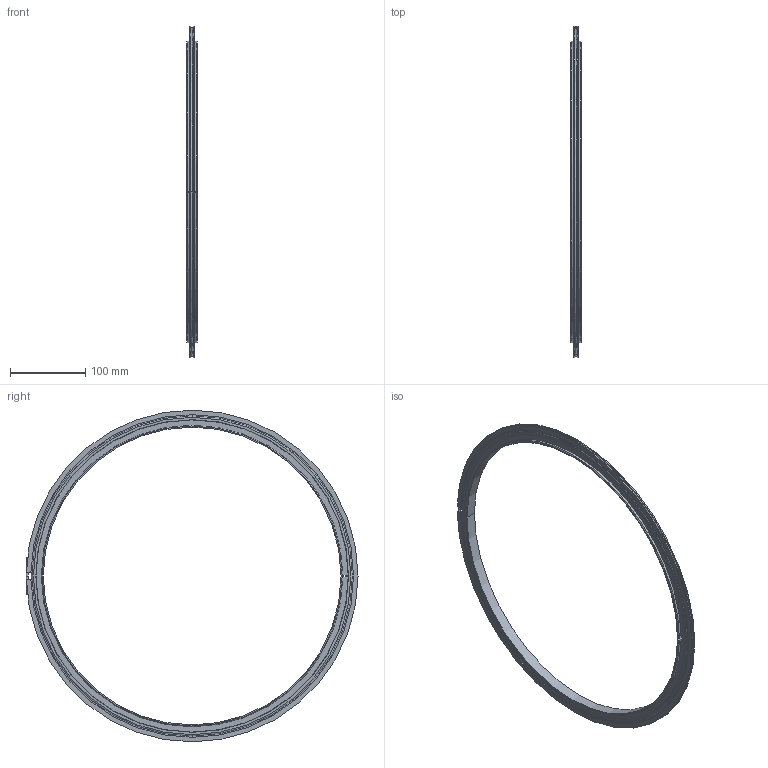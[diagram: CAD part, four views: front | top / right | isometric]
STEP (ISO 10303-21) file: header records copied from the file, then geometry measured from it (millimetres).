
FILE_DESCRIPTION((''),'2;1');
FILE_NAME('N:\Transfer\Berger Martin\Leybold\C13\26814.stp','2005-02-08T10:21:23',('PESO'),(''),'Autodesk Inventor 9','Autodesk Inventor 9','');
FILE_SCHEMA(('AUTOMOTIVE_DESIGN { 1 0 10303 214 1 1 1 1 }'));
Length unit declared in the file: millimetre
Products named in the file (1): 26814
Bounding box: 14 x 440.4 x 440 mm (x, y, z)
Volume: 178273.4 mm3; surface area: 101446.6 mm2
Topology: 2 solids, 2 shells, 66 faces, 189 edges, 127 vertices
Faces by surface type: cylinder 28, plane 18, torus 12, bspline 4, cone 4
Entity records: 2612 total; most frequent: CARTESIAN_POINT 731, DIRECTION 427, ORIENTED_EDGE 394, EDGE_CURVE 197, AXIS2_PLACEMENT_3D 179, VERTEX_POINT 127, CIRCLE 116, VECTOR 69
